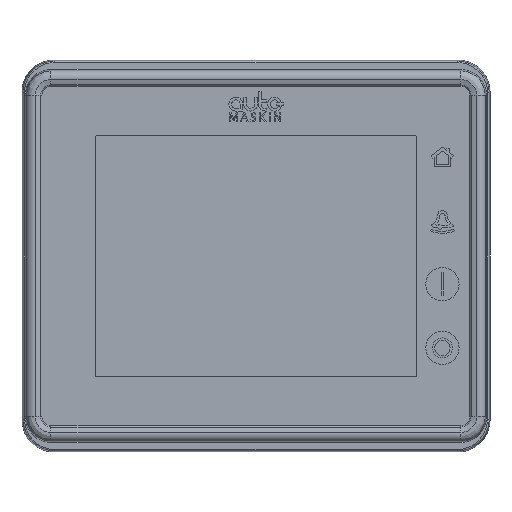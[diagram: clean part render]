
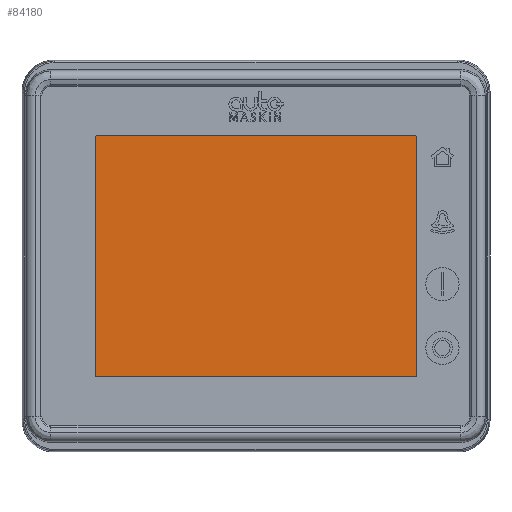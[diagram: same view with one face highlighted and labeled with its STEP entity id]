
A CAD part, front view. The second image highlights one B-rep face of the part: STEP entity #84180.
In plain terms, the highlighted planar face has unit normal (0, -1, 0) as drawn and (0, 0, 1) by its records, which use the part's own axes.
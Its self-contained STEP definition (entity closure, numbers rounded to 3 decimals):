
#2105=B_SPLINE_CURVE_WITH_KNOTS('',3,(#242917,#242918,#242919,#242920,#242921,
#242922),.UNSPECIFIED.,.F.,.F.,(4,1,1,4),(0.,0.13,0.255,
0.384),.UNSPECIFIED.);
#2107=B_SPLINE_CURVE_WITH_KNOTS('',3,(#242950,#242951,#242952,#242953,#242954,
#242955),.UNSPECIFIED.,.F.,.F.,(4,1,1,4),(0.,0.13,0.255,
0.384),.UNSPECIFIED.);
#2109=B_SPLINE_CURVE_WITH_KNOTS('',3,(#242983,#242984,#242985,#242986,#242987,
#242988),.UNSPECIFIED.,.F.,.F.,(4,1,1,4),(0.,0.131,0.258,
0.39),.UNSPECIFIED.);
#2111=B_SPLINE_CURVE_WITH_KNOTS('',3,(#243013,#243014,#243015,#243016,#243017,
#243018),.UNSPECIFIED.,.F.,.F.,(4,1,1,4),(0.,0.132,0.26,
0.39),.UNSPECIFIED.);
#13279=FACE_OUTER_BOUND('',#18562,.T.);
#18562=EDGE_LOOP('',(#75921,#75922,#75923,#75924,#75925,#75926,#75927,#75928));
#24999=LINE('',#242894,#31654);
#25004=LINE('',#242928,#31659);
#25008=LINE('',#242961,#31663);
#25012=LINE('',#242994,#31667);
#31654=VECTOR('',#114016,1.);
#31659=VECTOR('',#114023,1.);
#31663=VECTOR('',#114029,1.);
#31667=VECTOR('',#114035,1.);
#39843=VERTEX_POINT('',#242891);
#39844=VERTEX_POINT('',#242893);
#39846=VERTEX_POINT('',#242915);
#39848=VERTEX_POINT('',#242926);
#39850=VERTEX_POINT('',#242948);
#39852=VERTEX_POINT('',#242959);
#39854=VERTEX_POINT('',#242981);
#39856=VERTEX_POINT('',#242992);
#51938=EDGE_CURVE('',#39844,#39843,#24999,.T.);
#51942=EDGE_CURVE('',#39843,#39846,#2105,.F.);
#51945=EDGE_CURVE('',#39846,#39848,#25004,.T.);
#51948=EDGE_CURVE('',#39848,#39850,#2107,.F.);
#51951=EDGE_CURVE('',#39850,#39852,#25008,.T.);
#51954=EDGE_CURVE('',#39852,#39854,#2109,.F.);
#51957=EDGE_CURVE('',#39854,#39856,#25012,.T.);
#51959=EDGE_CURVE('',#39856,#39844,#2111,.F.);
#75921=ORIENTED_EDGE('',*,*,#51938,.T.);
#75922=ORIENTED_EDGE('',*,*,#51942,.T.);
#75923=ORIENTED_EDGE('',*,*,#51945,.T.);
#75924=ORIENTED_EDGE('',*,*,#51948,.T.);
#75925=ORIENTED_EDGE('',*,*,#51951,.T.);
#75926=ORIENTED_EDGE('',*,*,#51954,.T.);
#75927=ORIENTED_EDGE('',*,*,#51957,.T.);
#75928=ORIENTED_EDGE('',*,*,#51959,.T.);
#79214=PLANE('',#92214);
#84180=ADVANCED_FACE('',(#13279),#79214,.T.);
#92214=AXIS2_PLACEMENT_3D('',#243244,#114154,#114155);
#114016=DIRECTION('',(-1.,0.,0.));
#114023=DIRECTION('',(0.,-1.,0.));
#114029=DIRECTION('',(1.,0.,0.));
#114035=DIRECTION('',(0.,1.,0.));
#114154=DIRECTION('center_axis',(0.,0.,1.));
#114155=DIRECTION('ref_axis',(-1.,0.,0.));
#242891=CARTESIAN_POINT('',(-5.775,4.36,0.2));
#242893=CARTESIAN_POINT('',(5.775,4.36,0.2));
#242894=CARTESIAN_POINT('',(0.,4.36,0.2));
#242915=CARTESIAN_POINT('',(-5.8,4.336,0.2));
#242917=CARTESIAN_POINT('Ctrl Pts',(-5.8,4.336,0.2));
#242918=CARTESIAN_POINT('Ctrl Pts',(-5.799,4.34,0.2));
#242919=CARTESIAN_POINT('Ctrl Pts',(-5.798,4.348,
0.2));
#242920=CARTESIAN_POINT('Ctrl Pts',(-5.788,4.358,
0.2));
#242921=CARTESIAN_POINT('Ctrl Pts',(-5.78,4.36,
0.2));
#242922=CARTESIAN_POINT('Ctrl Pts',(-5.775,4.36,0.2));
#242926=CARTESIAN_POINT('',(-5.8,-4.335,0.2));
#242928=CARTESIAN_POINT('',(-5.8,0.,0.2));
#242948=CARTESIAN_POINT('',(-5.775,-4.36,0.2));
#242950=CARTESIAN_POINT('Ctrl Pts',(-5.775,-4.36,0.2));
#242951=CARTESIAN_POINT('Ctrl Pts',(-5.78,-4.359,
0.2));
#242952=CARTESIAN_POINT('Ctrl Pts',(-5.788,-4.358,
0.2));
#242953=CARTESIAN_POINT('Ctrl Pts',(-5.798,-4.348,
0.2));
#242954=CARTESIAN_POINT('Ctrl Pts',(-5.799,-4.339,
0.2));
#242955=CARTESIAN_POINT('Ctrl Pts',(-5.8,-4.335,0.2));
#242959=CARTESIAN_POINT('',(5.775,-4.36,0.2));
#242961=CARTESIAN_POINT('',(0.,-4.36,0.2));
#242981=CARTESIAN_POINT('',(5.8,-4.335,0.2));
#242983=CARTESIAN_POINT('Ctrl Pts',(5.8,-4.335,0.2));
#242984=CARTESIAN_POINT('Ctrl Pts',(5.8,-4.339,
0.2));
#242985=CARTESIAN_POINT('Ctrl Pts',(5.798,-4.348,
0.2));
#242986=CARTESIAN_POINT('Ctrl Pts',(5.788,-4.358,
0.2));
#242987=CARTESIAN_POINT('Ctrl Pts',(5.779,-4.359,
0.2));
#242988=CARTESIAN_POINT('Ctrl Pts',(5.775,-4.36,0.2));
#242992=CARTESIAN_POINT('',(5.8,4.336,0.2));
#242994=CARTESIAN_POINT('',(5.8,0.,0.2));
#243013=CARTESIAN_POINT('Ctrl Pts',(5.775,4.36,0.2));
#243014=CARTESIAN_POINT('Ctrl Pts',(5.779,4.36,0.2));
#243015=CARTESIAN_POINT('Ctrl Pts',(5.788,4.358,0.2));
#243016=CARTESIAN_POINT('Ctrl Pts',(5.798,4.349,0.2));
#243017=CARTESIAN_POINT('Ctrl Pts',(5.8,4.34,0.2));
#243018=CARTESIAN_POINT('Ctrl Pts',(5.8,4.336,0.2));
#243244=CARTESIAN_POINT('Origin',(0.,0.,0.2));
